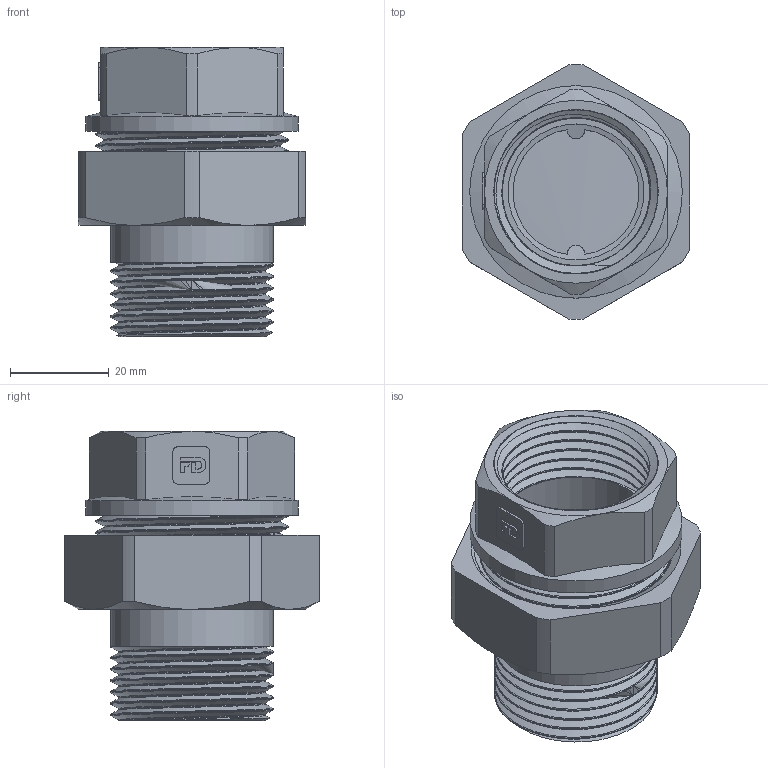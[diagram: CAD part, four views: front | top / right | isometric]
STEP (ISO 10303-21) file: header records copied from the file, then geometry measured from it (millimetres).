
FILE_DESCRIPTION(/* description */ (''),/* implementation_level */ '2;1');
FILE_NAME(/* name */ 'C:\Users\Doom\Desktop\Фадотех\Резьба\SN03 18.03.2020\SN03 18.03.2020.stp',/* time_stamp */ '2022-01-16T23:48:16+02:00',/* author */ ('Doom'),/* organization */ (''),/* preprocessor_version */ 'ST-DEVELOPER v18',/* originating_system */ 'Autodesk Inventor 2020',/* authorisation */ '');
FILE_SCHEMA (('AUTOMOTIVE_DESIGN { 1 0 10303 214 3 1 1 }'));
Length unit declared in the file: millimetre
Products named in the file (4): SC03 18.03.2020; 2060183D; 2060184D; SN03-1
Assembly tree (3 placements, depth 2):
  SC03 18.03.2020
    2060183D
    2060184D
    SN03-1
Bounding box: 46 x 51.49 x 58.5 mm (x, y, z)
Volume: 34760.3 mm3; surface area: 35184.4 mm2
Topology: 6 solids, 6 shells, 166 faces, 451 edges, 306 vertices
Faces by surface type: cylinder 61, plane 52, bspline 32, cone 21
Full cylindrical faces by diameter (mm): 26.5 x1, 27.5 x1, 29.576 x2, 29.816 x5, 30 x1, 31 x1, 32 x1, 33 x7, 33.24 x2, 34 x1, 35.526 x2, 38 x1, 38.475 x1, 38.476 x6, 38.95 x4, 43 x1
Entity records: 18864 total; most frequent: CARTESIAN_POINT 14872, ORIENTED_EDGE 902, DIRECTION 666, EDGE_CURVE 451, VERTEX_POINT 306, AXIS2_PLACEMENT_3D 260, EDGE_LOOP 187, FACE_OUTER_BOUND 166
